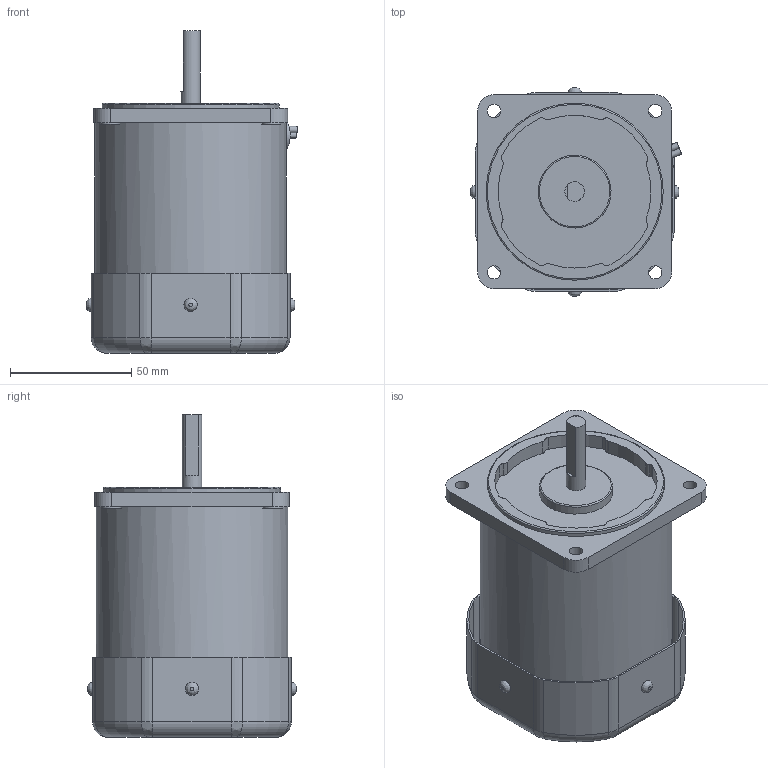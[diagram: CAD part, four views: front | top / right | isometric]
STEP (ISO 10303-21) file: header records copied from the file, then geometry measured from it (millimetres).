
FILE_DESCRIPTION((''),'2;1');
FILE_NAME('Z:\2공장-도면\3D\STEP FILE\K8IS40F□.stp','2019-10-04T17:09:47',('AHN'),(''),'Autodesk Inventor 2009','Autodesk Inventor 2009','');
FILE_SCHEMA(('AUTOMOTIVE_DESIGN { 1 0 10303 214 1 1 1 1 }'));
Length unit declared in the file: millimetre
Products named in the file (3): 조립품2; K8IS25N□; K8 40W FAN CASE
Assembly tree (2 placements, depth 2):
  조립품2
    K8IS25N□
    K8 40W FAN CASE
Bounding box: 87.13 x 86 x 133 mm (x, y, z)
Volume: 427512.3 mm3; surface area: 64536.5 mm2
Topology: 2 solids, 2 shells, 221 faces, 557 edges, 355 vertices
Faces by surface type: cylinder 131, plane 58, bspline 20, torus 11, cone 1
Full cylindrical faces by diameter (mm): 2.6 x2, 3.5 x4, 5.5 x4, 6.5 x1, 8 x5, 30 x1, 73 x1, 78 x1, 79 x1
Entity records: 7076 total; most frequent: CARTESIAN_POINT 1566, DIRECTION 1253, ORIENTED_EDGE 1050, EDGE_CURVE 525, AXIS2_PLACEMENT_3D 523, VERTEX_POINT 349, CIRCLE 317, EDGE_LOOP 291
